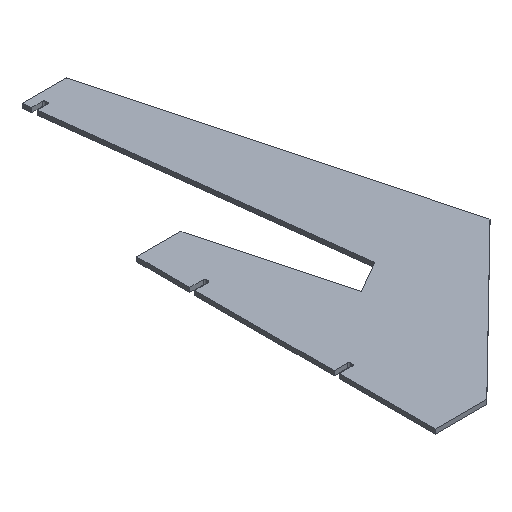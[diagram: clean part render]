
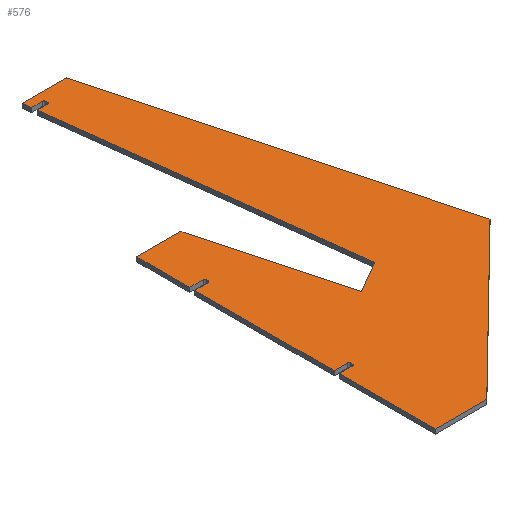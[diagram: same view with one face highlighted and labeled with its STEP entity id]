
A CAD part, isometric view. The second image highlights one B-rep face of the part: STEP entity #576.
In plain terms, the highlighted planar face has unit normal (0, 0, 1).
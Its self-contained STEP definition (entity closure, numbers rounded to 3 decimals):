
#36=PLANE('',#631);
#65=FACE_OUTER_BOUND('',#94,.T.);
#94=EDGE_LOOP('',(#489,#490,#491,#492,#493,#494,#495,#496,#497,#498,#499,
#500,#501,#502,#503,#504,#505,#506,#507,#508,#509,#510,#511,#512,#513,#514,
#515));
#100=LINE('',#801,#169);
#104=LINE('',#813,#173);
#109=LINE('',#828,#178);
#114=LINE('',#843,#183);
#117=LINE('',#854,#186);
#121=LINE('',#866,#190);
#123=LINE('',#870,#192);
#127=LINE('',#878,#196);
#130=LINE('',#884,#199);
#133=LINE('',#890,#202);
#136=LINE('',#896,#205);
#139=LINE('',#902,#208);
#142=LINE('',#906,#211);
#143=LINE('',#909,#212);
#147=LINE('',#915,#216);
#148=LINE('',#918,#217);
#152=LINE('',#926,#221);
#155=LINE('',#932,#224);
#158=LINE('',#938,#227);
#161=LINE('',#944,#230);
#164=LINE('',#948,#233);
#169=VECTOR('',#647,10.);
#173=VECTOR('',#659,10.);
#178=VECTOR('',#672,10.);
#183=VECTOR('',#685,10.);
#186=VECTOR('',#696,10.);
#190=VECTOR('',#708,10.);
#192=VECTOR('',#712,10.);
#196=VECTOR('',#718,10.);
#199=VECTOR('',#723,10.);
#202=VECTOR('',#728,10.);
#205=VECTOR('',#733,10.);
#208=VECTOR('',#738,10.);
#211=VECTOR('',#743,10.);
#212=VECTOR('',#746,10.);
#216=VECTOR('',#752,10.);
#217=VECTOR('',#755,10.);
#221=VECTOR('',#761,10.);
#224=VECTOR('',#766,10.);
#227=VECTOR('',#771,10.);
#230=VECTOR('',#776,10.);
#233=VECTOR('',#781,10.);
#235=CIRCLE('',#594,1.);
#237=CIRCLE('',#598,1.);
#239=CIRCLE('',#602,1.);
#241=CIRCLE('',#606,1.);
#243=CIRCLE('',#610,1.);
#245=CIRCLE('',#614,1.);
#248=VERTEX_POINT('',#791);
#249=VERTEX_POINT('',#793);
#251=VERTEX_POINT('',#799);
#253=VERTEX_POINT('',#805);
#255=VERTEX_POINT('',#811);
#258=VERTEX_POINT('',#818);
#259=VERTEX_POINT('',#820);
#261=VERTEX_POINT('',#826);
#264=VERTEX_POINT('',#833);
#265=VERTEX_POINT('',#835);
#267=VERTEX_POINT('',#841);
#270=VERTEX_POINT('',#848);
#271=VERTEX_POINT('',#850);
#274=VERTEX_POINT('',#860);
#275=VERTEX_POINT('',#862);
#276=VERTEX_POINT('',#869);
#279=VERTEX_POINT('',#877);
#281=VERTEX_POINT('',#883);
#283=VERTEX_POINT('',#889);
#285=VERTEX_POINT('',#895);
#287=VERTEX_POINT('',#901);
#288=VERTEX_POINT('',#908);
#290=VERTEX_POINT('',#917);
#293=VERTEX_POINT('',#925);
#295=VERTEX_POINT('',#931);
#297=VERTEX_POINT('',#937);
#299=VERTEX_POINT('',#943);
#302=EDGE_CURVE('',#248,#249,#235,.T.);
#306=EDGE_CURVE('',#248,#251,#100,.T.);
#309=EDGE_CURVE('',#253,#251,#237,.T.);
#312=EDGE_CURVE('',#253,#255,#104,.T.);
#315=EDGE_CURVE('',#258,#259,#239,.T.);
#319=EDGE_CURVE('',#258,#261,#109,.T.);
#322=EDGE_CURVE('',#264,#265,#241,.T.);
#326=EDGE_CURVE('',#264,#267,#114,.T.);
#329=EDGE_CURVE('',#270,#271,#243,.T.);
#331=EDGE_CURVE('',#270,#265,#117,.T.);
#335=EDGE_CURVE('',#274,#275,#245,.T.);
#337=EDGE_CURVE('',#274,#259,#121,.T.);
#339=EDGE_CURVE('',#276,#249,#123,.T.);
#343=EDGE_CURVE('',#279,#276,#127,.T.);
#346=EDGE_CURVE('',#281,#279,#130,.T.);
#349=EDGE_CURVE('',#283,#281,#133,.T.);
#352=EDGE_CURVE('',#285,#283,#136,.T.);
#355=EDGE_CURVE('',#287,#285,#139,.T.);
#358=EDGE_CURVE('',#267,#287,#142,.T.);
#359=EDGE_CURVE('',#288,#271,#143,.T.);
#363=EDGE_CURVE('',#261,#288,#147,.T.);
#364=EDGE_CURVE('',#290,#275,#148,.T.);
#368=EDGE_CURVE('',#293,#290,#152,.T.);
#371=EDGE_CURVE('',#295,#293,#155,.T.);
#374=EDGE_CURVE('',#297,#295,#158,.T.);
#377=EDGE_CURVE('',#299,#297,#161,.T.);
#380=EDGE_CURVE('',#255,#299,#164,.T.);
#489=ORIENTED_EDGE('',*,*,#380,.T.);
#490=ORIENTED_EDGE('',*,*,#377,.T.);
#491=ORIENTED_EDGE('',*,*,#374,.T.);
#492=ORIENTED_EDGE('',*,*,#371,.T.);
#493=ORIENTED_EDGE('',*,*,#368,.T.);
#494=ORIENTED_EDGE('',*,*,#364,.T.);
#495=ORIENTED_EDGE('',*,*,#335,.F.);
#496=ORIENTED_EDGE('',*,*,#337,.T.);
#497=ORIENTED_EDGE('',*,*,#315,.F.);
#498=ORIENTED_EDGE('',*,*,#319,.T.);
#499=ORIENTED_EDGE('',*,*,#363,.T.);
#500=ORIENTED_EDGE('',*,*,#359,.T.);
#501=ORIENTED_EDGE('',*,*,#329,.F.);
#502=ORIENTED_EDGE('',*,*,#331,.T.);
#503=ORIENTED_EDGE('',*,*,#322,.F.);
#504=ORIENTED_EDGE('',*,*,#326,.T.);
#505=ORIENTED_EDGE('',*,*,#358,.T.);
#506=ORIENTED_EDGE('',*,*,#355,.T.);
#507=ORIENTED_EDGE('',*,*,#352,.T.);
#508=ORIENTED_EDGE('',*,*,#349,.T.);
#509=ORIENTED_EDGE('',*,*,#346,.T.);
#510=ORIENTED_EDGE('',*,*,#343,.T.);
#511=ORIENTED_EDGE('',*,*,#339,.T.);
#512=ORIENTED_EDGE('',*,*,#302,.F.);
#513=ORIENTED_EDGE('',*,*,#306,.T.);
#514=ORIENTED_EDGE('',*,*,#309,.F.);
#515=ORIENTED_EDGE('',*,*,#312,.T.);
#576=ADVANCED_FACE('',(#65),#36,.T.);
#594=AXIS2_PLACEMENT_3D('',#794,#640,#641);
#598=AXIS2_PLACEMENT_3D('',#807,#653,#654);
#602=AXIS2_PLACEMENT_3D('',#821,#665,#666);
#606=AXIS2_PLACEMENT_3D('',#836,#678,#679);
#610=AXIS2_PLACEMENT_3D('',#851,#691,#692);
#614=AXIS2_PLACEMENT_3D('',#863,#703,#704);
#631=AXIS2_PLACEMENT_3D('',#949,#782,#783);
#640=DIRECTION('center_axis',(0.,0.,1.));
#641=DIRECTION('ref_axis',(0.707,0.707,0.));
#647=DIRECTION('',(0.,-1.,0.));
#653=DIRECTION('center_axis',(0.,0.,1.));
#654=DIRECTION('ref_axis',(0.707,-0.707,0.));
#659=DIRECTION('',(-1.,0.,0.));
#665=DIRECTION('center_axis',(0.,0.,1.));
#666=DIRECTION('ref_axis',(0.707,-0.707,0.));
#672=DIRECTION('',(-1.,0.,0.));
#678=DIRECTION('center_axis',(0.,0.,1.));
#679=DIRECTION('ref_axis',(0.707,-0.707,0.));
#685=DIRECTION('',(-1.,0.,0.));
#691=DIRECTION('center_axis',(0.,0.,1.));
#692=DIRECTION('ref_axis',(0.707,0.707,0.));
#696=DIRECTION('',(0.,-1.,0.));
#703=DIRECTION('center_axis',(0.,0.,1.));
#704=DIRECTION('ref_axis',(0.707,0.707,0.));
#708=DIRECTION('',(0.,-1.,0.));
#712=DIRECTION('',(1.,0.,0.));
#718=DIRECTION('',(0.122,-0.993,0.));
#723=DIRECTION('',(-1.,0.,0.));
#728=DIRECTION('',(-0.259,0.966,0.));
#733=DIRECTION('',(0.714,0.7,0.));
#738=DIRECTION('',(1.,0.,0.));
#743=DIRECTION('',(0.,-1.,0.));
#746=DIRECTION('',(1.,0.,0.));
#752=DIRECTION('',(0.,-1.,0.));
#755=DIRECTION('',(1.,0.,0.));
#761=DIRECTION('',(0.,-1.,0.));
#766=DIRECTION('',(-1.,0.,0.));
#771=DIRECTION('',(-0.259,0.966,0.));
#776=DIRECTION('',(-0.866,-0.5,0.));
#781=DIRECTION('',(0.122,-0.993,0.));
#782=DIRECTION('center_axis',(0.,0.,1.));
#783=DIRECTION('ref_axis',(1.,0.,0.));
#791=CARTESIAN_POINT('',(96.193,5.168,3.));
#793=CARTESIAN_POINT('',(95.193,6.168,3.));
#794=CARTESIAN_POINT('Origin',(95.193,5.168,3.));
#799=CARTESIAN_POINT('',(96.193,3.768,3.));
#801=CARTESIAN_POINT('',(96.193,2.768,3.));
#805=CARTESIAN_POINT('',(95.193,2.768,3.));
#807=CARTESIAN_POINT('Origin',(95.193,3.768,3.));
#811=CARTESIAN_POINT('',(88.154,2.768,3.));
#813=CARTESIAN_POINT('',(87.736,2.768,3.));
#818=CARTESIAN_POINT('',(44.943,-156.692,3.));
#820=CARTESIAN_POINT('',(45.943,-155.692,3.));
#821=CARTESIAN_POINT('Origin',(44.943,-155.692,3.));
#826=CARTESIAN_POINT('',(35.693,-156.692,3.));
#828=CARTESIAN_POINT('',(45.943,-156.692,3.));
#833=CARTESIAN_POINT('',(44.943,-254.692,3.));
#835=CARTESIAN_POINT('',(45.943,-253.692,3.));
#836=CARTESIAN_POINT('Origin',(44.943,-253.692,3.));
#841=CARTESIAN_POINT('',(35.693,-254.692,3.));
#843=CARTESIAN_POINT('',(35.693,-254.692,3.));
#848=CARTESIAN_POINT('',(45.943,-252.292,3.));
#850=CARTESIAN_POINT('',(44.943,-251.292,3.));
#851=CARTESIAN_POINT('Origin',(44.943,-252.292,3.));
#854=CARTESIAN_POINT('',(45.943,-254.692,3.));
#860=CARTESIAN_POINT('',(45.943,-154.292,3.));
#862=CARTESIAN_POINT('',(44.943,-153.292,3.));
#863=CARTESIAN_POINT('Origin',(44.943,-154.292,3.));
#866=CARTESIAN_POINT('',(45.943,-153.292,3.));
#869=CARTESIAN_POINT('',(87.736,6.168,3.));
#870=CARTESIAN_POINT('',(96.193,6.168,3.));
#877=CARTESIAN_POINT('',(87.024,11.968,3.));
#878=CARTESIAN_POINT('',(87.024,11.968,3.));
#883=CARTESIAN_POINT('',(117.024,11.968,3.));
#884=CARTESIAN_POINT('',(117.024,11.968,3.));
#889=CARTESIAN_POINT('',(177.847,-215.025,3.));
#890=CARTESIAN_POINT('',(177.847,-215.025,3.));
#895=CARTESIAN_POINT('',(70.693,-319.992,3.));
#896=CARTESIAN_POINT('',(70.693,-319.992,3.));
#901=CARTESIAN_POINT('',(35.693,-319.992,3.));
#902=CARTESIAN_POINT('',(35.693,-319.992,3.));
#906=CARTESIAN_POINT('',(35.693,-117.337,3.));
#908=CARTESIAN_POINT('',(35.693,-251.292,3.));
#909=CARTESIAN_POINT('',(45.943,-251.292,3.));
#915=CARTESIAN_POINT('',(35.693,-117.337,3.));
#917=CARTESIAN_POINT('',(35.693,-153.292,3.));
#918=CARTESIAN_POINT('',(35.693,-153.292,3.));
#925=CARTESIAN_POINT('',(35.693,-117.337,3.));
#926=CARTESIAN_POINT('',(35.693,-117.337,3.));
#931=CARTESIAN_POINT('',(65.693,-117.337,3.));
#932=CARTESIAN_POINT('',(65.693,-117.337,3.));
#937=CARTESIAN_POINT('',(91.575,-213.929,3.));
#938=CARTESIAN_POINT('',(91.575,-213.929,3.));
#943=CARTESIAN_POINT('',(113.226,-201.429,3.));
#944=CARTESIAN_POINT('',(113.226,-201.429,3.));
#948=CARTESIAN_POINT('',(87.024,11.968,3.));
#949=CARTESIAN_POINT('Origin',(106.77,-154.012,3.));
